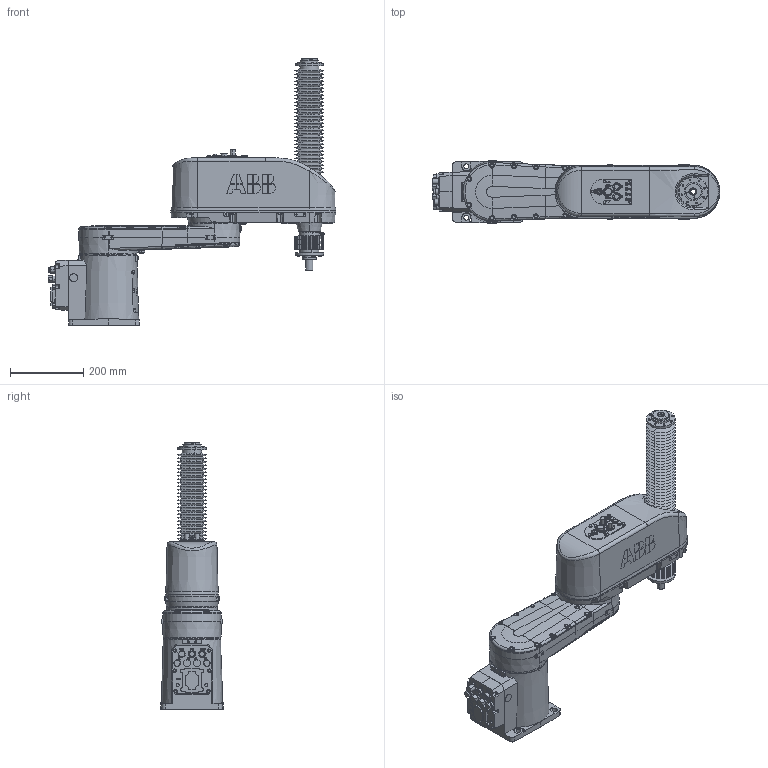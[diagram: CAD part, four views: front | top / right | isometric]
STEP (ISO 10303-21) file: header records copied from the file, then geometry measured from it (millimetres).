
FILE_DESCRIPTION (( 'STEP AP214' ), '1' );
FILE_NAME ('IRB920T_6kg-550-250-IP54-STD_OmniCore_rev00_Assembly.step', '2021-10-28T02:22:36', ( '' ), ( '' ), 'SwSTEP 2.0', 'SolidWorks 2018', '' );
FILE_SCHEMA (( 'AUTOMOTIVE_DESIGN' ));
Length unit declared in the file: millimetre
Products named in the file (5): IRB920T_6kg-550-250-IP54CR-STD_OmniCore_rev00_LINK3_CAD; IRB920T_6kg-550-250-IP54CR-STD_OmniCore_rev00_LINK2_CAD; IRB920T_6kg-550-250-IP54CR-STD_OmniCore_rev00_LINK1_CAD; IRB920T_6kg-550-250-IP54-STD_OmniCore_rev00_LINK0_CAD; IRB920T_6kg-550-250-IP54-STD_OmniCore_rev00_Assembly
Assembly tree (4 placements, depth 2):
  IRB920T_6kg-550-250-IP54-STD_OmniCore_rev00_Assembly
    IRB920T_6kg-550-250-IP54-STD_OmniCore_rev00_LINK0_CAD
    IRB920T_6kg-550-250-IP54CR-STD_OmniCore_rev00_LINK1_CAD
    IRB920T_6kg-550-250-IP54CR-STD_OmniCore_rev00_LINK2_CAD
    IRB920T_6kg-550-250-IP54CR-STD_OmniCore_rev00_LINK3_CAD
Bounding box: 787 x 170 x 728.7 mm (x, y, z)
Volume: 20292858.9 mm3; surface area: 1182462.3 mm2
Topology: 4 solids, 4 shells, 2573 faces, 6445 edges, 4110 vertices
Faces by surface type: plane 1252, cone 474, cylinder 442, bspline 389, torus 14, sphere 2
Entity records: 106381 total; most frequent: CARTESIAN_POINT 38149, ORIENTED_EDGE 12744, DIRECTION 10611, EDGE_CURVE 6372, VERTEX_POINT 4110, VECTOR 3713, LINE 3713, AXIS2_PLACEMENT_3D 3449
